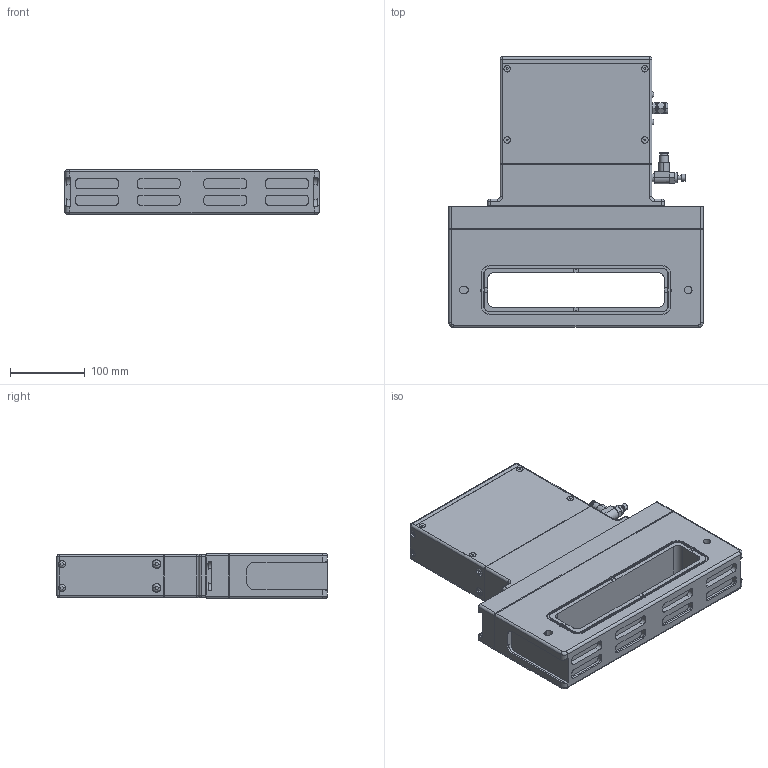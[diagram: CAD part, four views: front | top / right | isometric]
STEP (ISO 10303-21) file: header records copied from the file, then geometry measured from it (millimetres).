
FILE_DESCRIPTION((''),'2;1');
FILE_NAME('28212-0209RXK','2011-03-02T',('jd'),(''),'PRO/ENGINEER BY PARAMETRIC TECHNOLOGY CORPORATION, 2010280','PRO/ENGINEER BY PARAMETRIC TECHNOLOGY CORPORATION, 2010280','');
FILE_SCHEMA(('CONFIG_CONTROL_DESIGN'));
Length unit declared in the file: inch
Products named in the file (1): 28212-0209RXK
Bounding box: 340 x 362.2 x 59.99 mm (x, y, z)
Volume: 4889427.1 mm3; surface area: 327403.9 mm2
Topology: 1 solids, 1 shells, 934 faces, 2320 edges, 1476 vertices
Faces by surface type: plane 522, cylinder 244, cone 114, bspline 24, torus 22, sphere 8
Entity records: 29996 total; most frequent: CARTESIAN_POINT 7608, DIRECTION 4666, ORIENTED_EDGE 4640, EDGE_CURVE 2320, AXIS2_PLACEMENT_3D 1656, VERTEX_POINT 1476, VECTOR 1354, LINE 1354
